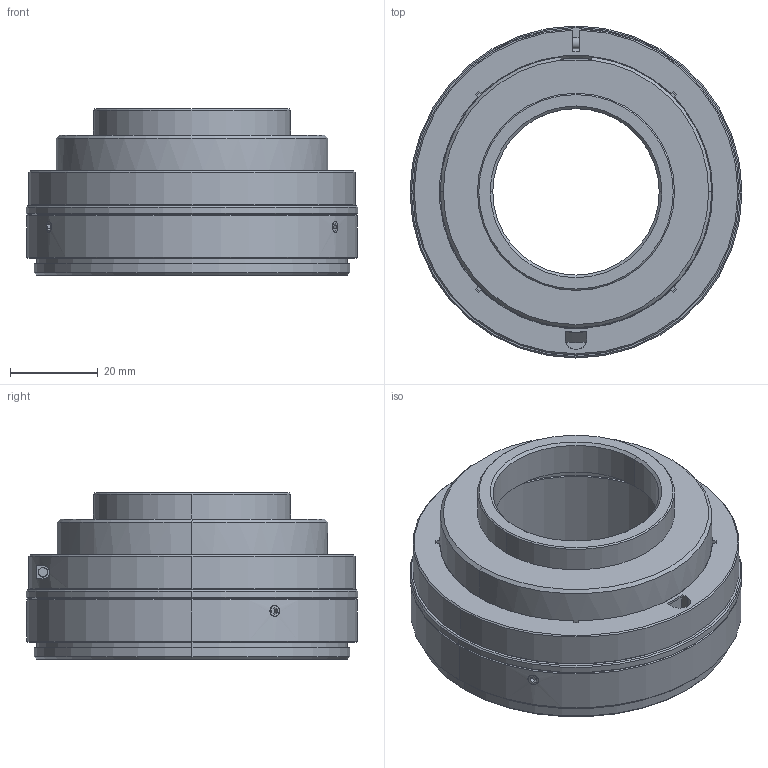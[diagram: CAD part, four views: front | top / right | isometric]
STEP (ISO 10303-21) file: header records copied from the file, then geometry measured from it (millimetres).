
FILE_DESCRIPTION (( 'STEP AP214' ), '1' );
FILE_NAME ('ML-4040-TUBE-M72.STEP', '2026-02-25T00:30:51', ( '' ), ( '' ), 'SwSTEP 2.0', 'SolidWorks 2025', '' );
FILE_SCHEMA (( 'AUTOMOTIVE_DESIGN' ));
Length unit declared in the file: millimetre
Products named in the file (1): ML-4040-TUBE-M72
Bounding box: 75.8 x 75.8 x 37.94 mm (x, y, z)
Volume: 46745 mm3; surface area: 22909.4 mm2
Topology: 1 solids, 2 shells, 270 faces, 654 edges, 422 vertices
Faces by surface type: plane 156, cylinder 62, cone 48, torus 4
Entity records: 8023 total; most frequent: CARTESIAN_POINT 1570, DIRECTION 1350, ORIENTED_EDGE 1304, EDGE_CURVE 652, AXIS2_PLACEMENT_3D 466, VERTEX_POINT 422, VECTOR 418, LINE 418
